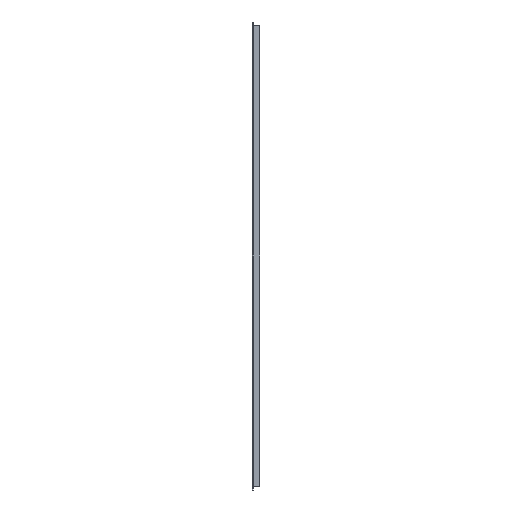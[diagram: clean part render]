
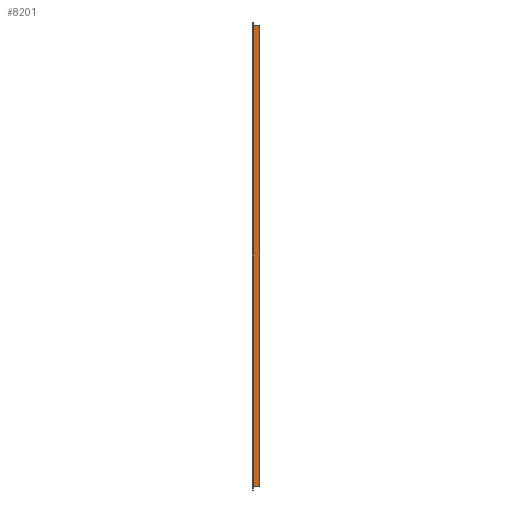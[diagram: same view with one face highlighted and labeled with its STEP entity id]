
A CAD part, left-side view. The second image highlights one B-rep face of the part: STEP entity #8201.
In plain terms, the highlighted planar face has unit normal (-1, 0, 0).
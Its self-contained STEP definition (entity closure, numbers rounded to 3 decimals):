
#4431=CARTESIAN_POINT(' ',(-259.5,-2.6,-442.5));
#4432=VERTEX_POINT(' ',#4431);
#4446=CARTESIAN_POINT(' ',(-259.5,-2.6,-442.5));
#4451=DIRECTION(' ',(0.,0.,1.));
#4456=VECTOR(' ',#4451,1.);
#4461=LINE('',#4446,#4456);
#4466=CARTESIAN_POINT(' ',(-259.5,-2.6,442.5));
#4467=VERTEX_POINT(' ',#4466);
#4471=EDGE_CURVE(' ',#4432,#4467,#4461,.T.);
#8026=CARTESIAN_POINT(' ',(-259.5,-15.,-442.5));
#8027=VERTEX_POINT(' ',#8026);
#8041=CARTESIAN_POINT(' ',(-259.5,-15.,-442.5));
#8046=DIRECTION(' ',(0.,1.,0.));
#8051=VECTOR(' ',#8046,1.);
#8056=LINE('',#8041,#8051);
#8061=EDGE_CURVE(' ',#8027,#4432,#8056,.T.);
#8091=DIRECTION(' ',(-1.,0.,0.));
#8096=CARTESIAN_POINT(' ',(-259.5,-2.6,442.5));
#8101=DIRECTION(' ',(-0.,0.,-1.));
#8106=AXIS2_PLACEMENT_3D(' ',#8096,#8091,#8101);
#8111=PLANE('NONE',#8106);
#8116=ORIENTED_EDGE(' ',*,*,#4471,.F.);
#8121=ORIENTED_EDGE(' ',*,*,#8061,.F.);
#8126=CARTESIAN_POINT(' ',(-259.5,-15.,442.5));
#8131=DIRECTION(' ',(0.,0.,-1.));
#8136=VECTOR(' ',#8131,1.);
#8141=LINE('',#8126,#8136);
#8146=CARTESIAN_POINT(' ',(-259.5,-15.,442.5));
#8147=VERTEX_POINT(' ',#8146);
#8151=EDGE_CURVE(' ',#8147,#8027,#8141,.T.);
#8156=ORIENTED_EDGE(' ',*,*,#8151,.F.);
#8161=CARTESIAN_POINT(' ',(-259.5,-2.6,442.5));
#8166=DIRECTION(' ',(0.,-1.,0.));
#8171=VECTOR(' ',#8166,1.);
#8176=LINE('',#8161,#8171);
#8181=EDGE_CURVE(' ',#4467,#8147,#8176,.T.);
#8186=ORIENTED_EDGE(' ',*,*,#8181,.F.);
#8191=EDGE_LOOP(' ',(#8116,#8121,#8156,#8186));
#8196=FACE_OUTER_BOUND(' ',#8191,.T.);
#8201=ADVANCED_FACE('NONE',(#8196),#8111,.T.);
